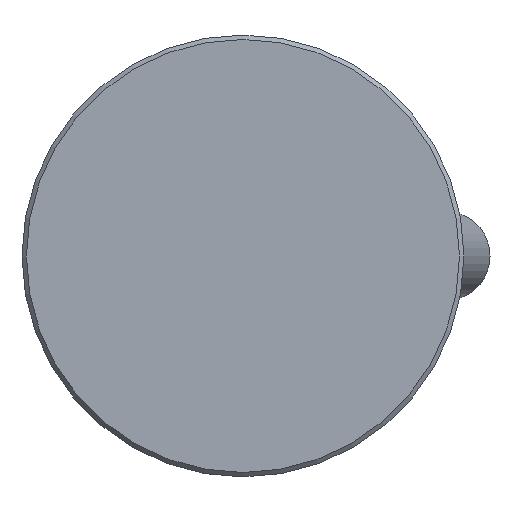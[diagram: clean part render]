
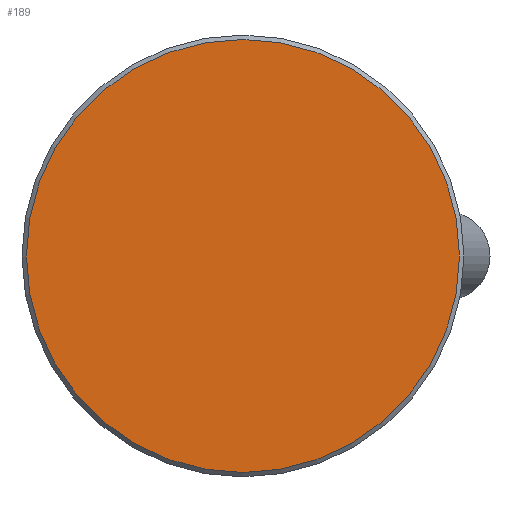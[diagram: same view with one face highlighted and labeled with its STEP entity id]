
A CAD part, front view. The second image highlights one B-rep face of the part: STEP entity #189.
In plain terms, the highlighted planar face has unit normal (0, -1, 0).
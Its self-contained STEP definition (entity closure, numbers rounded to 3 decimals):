
#189 = ADVANCED_FACE( '', ( #374 ), #375, .F. );
#374 = FACE_OUTER_BOUND( '', #574, .T. );
#375 = PLANE( '', #575 );
#574 = EDGE_LOOP( '', ( #856 ) );
#575 = AXIS2_PLACEMENT_3D( '', #857, #858, #859 );
#856 = ORIENTED_EDGE( '', *, *, #1157, .T. );
#857 = CARTESIAN_POINT( '', ( 24.5, 0., 0. ) );
#858 = DIRECTION( '', ( 0., 1., 0. ) );
#859 = DIRECTION( '', ( 0., 0., 1. ) );
#1157 = EDGE_CURVE( '', #1346, #1346, #1347, .T. );
#1346 = VERTEX_POINT( '', #1687 );
#1347 = CIRCLE( '', #1688, 24.5 );
#1687 = CARTESIAN_POINT( '', ( 0., 0., -24.5 ) );
#1688 = AXIS2_PLACEMENT_3D( '', #2023, #2024, #2025 );
#2023 = CARTESIAN_POINT( '', ( 0., 0., 0. ) );
#2024 = DIRECTION( '', ( 0., -1., 0. ) );
#2025 = DIRECTION( '', ( 0., 0., -1. ) );
